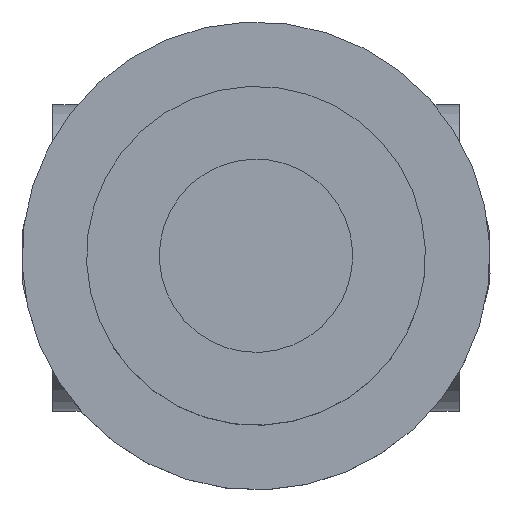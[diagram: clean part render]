
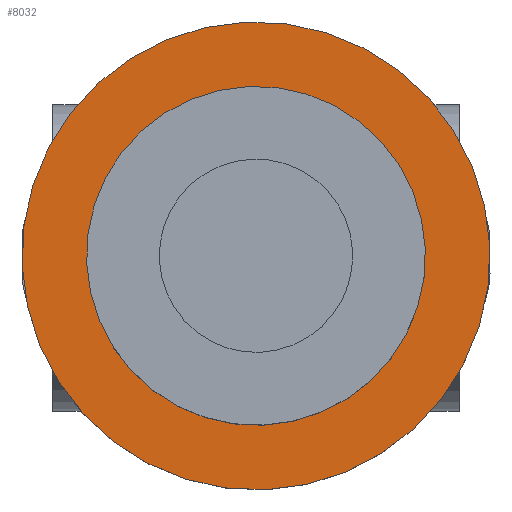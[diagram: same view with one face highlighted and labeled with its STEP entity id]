
A CAD part, top view. The second image highlights one B-rep face of the part: STEP entity #8032.
In plain terms, the highlighted planar face has unit normal (0, 0, 1).
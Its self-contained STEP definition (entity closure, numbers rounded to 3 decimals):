
#1007 = FACE_OUTER_BOUND ( 'NONE', #15535, .T. ) ;
#1074 = DIRECTION ( 'NONE',  ( -0.383, 0.924, 0. ) ) ;
#1938 = EDGE_CURVE ( 'NONE', #18754, #17705, #4810, .T. ) ;
#2228 = PLANE ( 'NONE',  #9940 ) ;
#2625 = ORIENTED_EDGE ( 'NONE', *, *, #3309, .T. ) ;
#2671 = CARTESIAN_POINT ( 'NONE',  ( -52.115, 0., 304.1 ) ) ;
#2877 = AXIS2_PLACEMENT_3D ( 'NONE', #2907, #12080, #1074 ) ;
#2907 = CARTESIAN_POINT ( 'NONE',  ( -52.115, 0., 304.1 ) ) ;
#3309 = EDGE_CURVE ( 'NONE', #17705, #18754, #18411, .T. ) ;
#3845 = DIRECTION ( 'NONE',  ( 0., 0., 1. ) ) ;
#4810 = CIRCLE ( 'NONE', #2877, 72.5 ) ;
#6046 = EDGE_LOOP ( 'NONE', ( #8888, #19319 ) ) ;
#7043 = ORIENTED_EDGE ( 'NONE', *, *, #1938, .T. ) ;
#7466 = CARTESIAN_POINT ( 'NONE',  ( -52.115, 0., 304.1 ) ) ;
#8032 = ADVANCED_FACE ( 'NONE', ( #1007, #14641 ), #2228, .T. ) ;
#8491 = DIRECTION ( 'NONE',  ( 0., 0., 1. ) ) ;
#8888 = ORIENTED_EDGE ( 'NONE', *, *, #16541, .F. ) ;
#9273 = CIRCLE ( 'NONE', #19302, 52.5 ) ;
#9720 = CARTESIAN_POINT ( 'NONE',  ( -52.115, 0., 304.1 ) ) ;
#9855 = CIRCLE ( 'NONE', #19872, 52.5 ) ;
#9940 = AXIS2_PLACEMENT_3D ( 'NONE', #16266, #3845, #19403 ) ;
#10445 = DIRECTION ( 'NONE',  ( 1., 0., 0. ) ) ;
#10479 = VERTEX_POINT ( 'NONE', #14695 ) ;
#10864 = VERTEX_POINT ( 'NONE', #12157 ) ;
#11710 = CARTESIAN_POINT ( 'NONE',  ( -24.344, -66.97, 304.1 ) ) ;
#12080 = DIRECTION ( 'NONE',  ( 0., 0., 1. ) ) ;
#12157 = CARTESIAN_POINT ( 'NONE',  ( -32.005, -48.496, 304.1 ) ) ;
#12528 = DIRECTION ( 'NONE',  ( 0., 0., 1. ) ) ;
#14641 = FACE_BOUND ( 'NONE', #6046, .T. ) ;
#14695 = CARTESIAN_POINT ( 'NONE',  ( -72.225, 48.496, 304.1 ) ) ;
#15366 = EDGE_CURVE ( 'NONE', #10864, #10479, #9273, .T. ) ;
#15505 = AXIS2_PLACEMENT_3D ( 'NONE', #9720, #8491, #15805 ) ;
#15535 = EDGE_LOOP ( 'NONE', ( #7043, #2625 ) ) ;
#15805 = DIRECTION ( 'NONE',  ( -0.383, 0.924, 0. ) ) ;
#16145 = DIRECTION ( 'NONE',  ( 0., 0., 1. ) ) ;
#16266 = CARTESIAN_POINT ( 'NONE',  ( -72.838, 49.974, 304.1 ) ) ;
#16541 = EDGE_CURVE ( 'NONE', #10479, #10864, #9855, .T. ) ;
#17705 = VERTEX_POINT ( 'NONE', #11710 ) ;
#18411 = CIRCLE ( 'NONE', #15505, 72.5 ) ;
#18754 = VERTEX_POINT ( 'NONE', #19270 ) ;
#19270 = CARTESIAN_POINT ( 'NONE',  ( -79.886, 66.97, 304.1 ) ) ;
#19302 = AXIS2_PLACEMENT_3D ( 'NONE', #7466, #12528, #19822 ) ;
#19319 = ORIENTED_EDGE ( 'NONE', *, *, #15366, .F. ) ;
#19403 = DIRECTION ( 'NONE',  ( 1., 0., 0. ) ) ;
#19822 = DIRECTION ( 'NONE',  ( 1., 0., 0. ) ) ;
#19872 = AXIS2_PLACEMENT_3D ( 'NONE', #2671, #16145, #10445 ) ;
